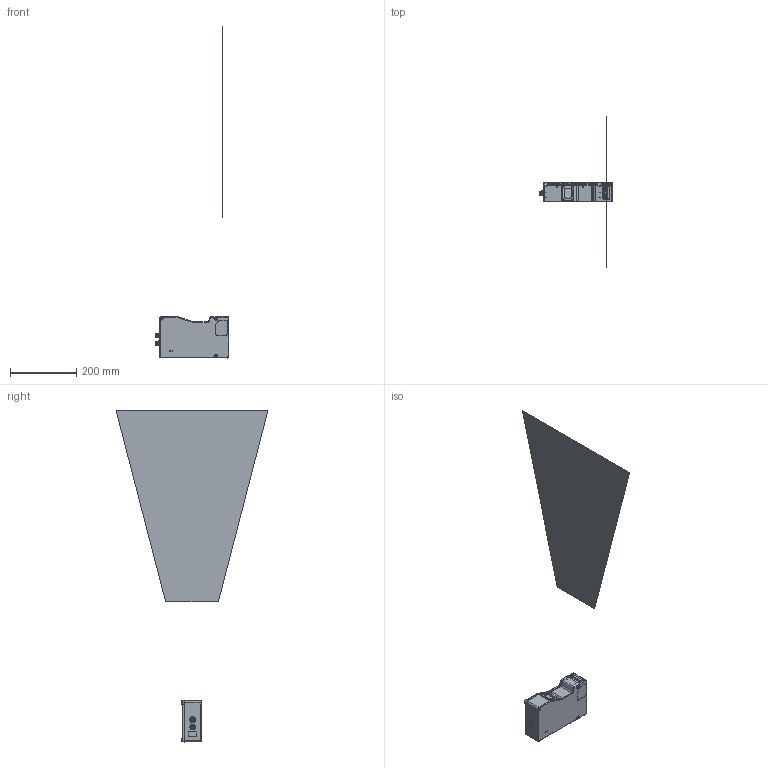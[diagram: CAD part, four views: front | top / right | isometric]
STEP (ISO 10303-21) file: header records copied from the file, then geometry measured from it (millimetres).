
FILE_DESCRIPTION((''),'2;1');
FILE_NAME('00-3300-3580-V2_0-WAIGUAN_ASM','2024-04-18T20:05:48',('liudeting'),(''),'CREO PARAMETRIC BY PTC INC, 2020044','CREO PARAMETRIC BY PTC INC, 2020044','');
FILE_SCHEMA(('CONFIG_CONTROL_DESIGN'));
Products named in the file (1): 00-3300-3580-V2_0-WAIGUAN_ASM
Bounding box: 224.1 x 460 x 1005.5 mm (x, y, z)
Volume: 167755.6 mm3; surface area: 345311.5 mm2
Topology: 48 solids, 118 shells, 2102 faces, 5524 edges, 3560 vertices
Faces by surface type: cylinder 819, plane 622, cone 398, torus 118, bspline 100, sphere 40, extrusion 5
Entity records: 93645 total; most frequent: CARTESIAN_POINT 42161, DIRECTION 10877, ORIENTED_EDGE 10460, EDGE_CURVE 5408, AXIS2_PLACEMENT_3D 4332, VERTEX_POINT 3560, EDGE_LOOP 2395, CIRCLE 2334
